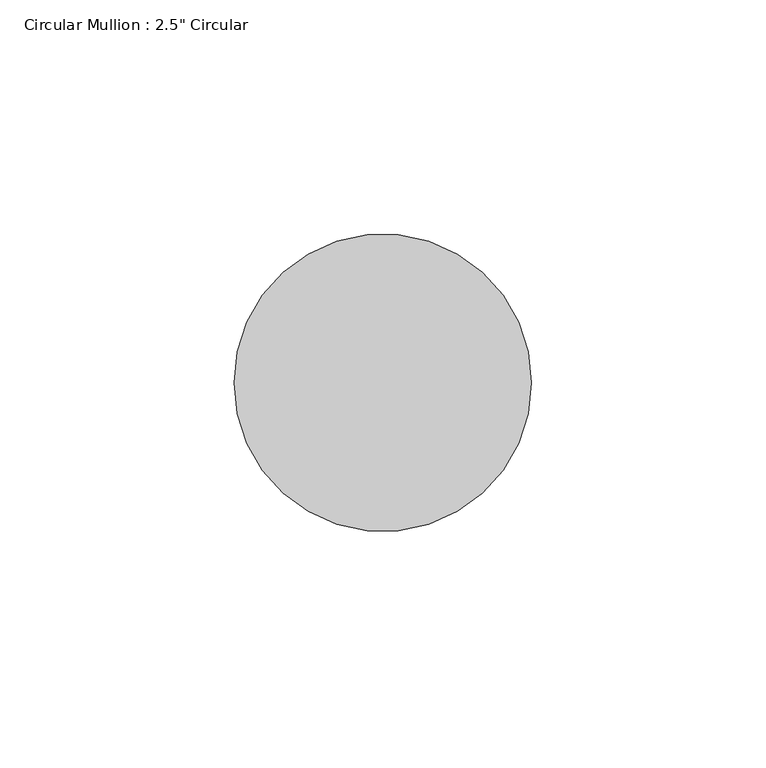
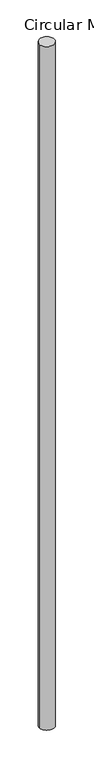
"""IFC4 building model written with IfcOpenShell, lengths in millimetres: member geometry."""

from ifc_helpers import new_model, si_unit, frame, origin, origin_with_axes, place, context, project, spatial, circle_curve, ellipse_curve, source, transform, mapped, element, save
from ifc_brep_helpers import plane_surface, cylinder_surface, advanced_brep


def member_d7a9b0f7(model_context):
    return source(origin(), model_context, "Body", "AdvancedBrep", [
        advanced_brep(
        [(31.75, 0.0, 0.0), (-31.75, 0.0, 0.0), (31.75, 0.0, -3044.8537899), (-31.75, 0.0, -3044.7308484)],
        [
            (0, 1, circle_curve(origin_with_axes(), 31.75)),
            (1, 0, circle_curve(origin_with_axes(), 31.75)),
            (0, 2),
            (2, 3, ellipse_curve(frame((0.0, 0.0, -3044.7923192), z_axis=(0.0019334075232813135, 0.05255420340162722, 0.9986162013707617), x_axis=(-0.036713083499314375, -0.9979411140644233, 0.05258975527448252)), 31.7939965, 31.75)),
            (3, 1),
            (3, 2, ellipse_curve(frame((0.0, 0.0, -3044.7923192), z_axis=(0.0019334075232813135, 0.05255420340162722, 0.9986162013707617), x_axis=(-0.036713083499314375, -0.9979411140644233, 0.05258975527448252)), 31.7939965, 31.75)),
        ],
        [
            plane_surface(frame((0.0, -31.75, 0.0), z_axis=(0.0, 0.0, 1.0), x_axis=(-1.0, 0.0, 0.0))),
            cylinder_surface(origin_with_axes(), 31.75),
            plane_surface(frame((304.5939483, -11.2056542, -3044.7923192), z_axis=(-0.001933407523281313, -0.052554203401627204, -0.9986162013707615), x_axis=(-0.03671308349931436, -0.997941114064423, 0.05258975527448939))),
        ],
        [
            (0, [[1, 2]]),
            (1, [[-1, 3, 4, 5]]),
            (1, [[-2, -5, 6, -3]]),
            (2, [[-6, -4]]),
        ],
    ),
    ])


if __name__ == "__main__":
    model = new_model("IFC4")
    model_context = context("Model", 3, world=origin())
    ifc_project = project(units=[si_unit("LENGTHUNIT", "METRE", prefix="MILLI")], contexts=[model_context])
    site = spatial("IfcSite", under=ifc_project)
    building = spatial("IfcBuilding", under=site)
    placement = place(None, origin())
    member_shape = member_d7a9b0f7(model_context)
    element("IfcMember", 1, ObjectType="Circular Mullion : 2.5\" Circular", at=placement, inside=building, context=model_context, shape_type="MappedRepresentation", body=[
        mapped(member_shape, transform((0.0, 0.0, 0.0), x_axis=(1.0, 0.0, 0.0), y_axis=(0.0, 1.0, 0.0), z_axis=(0.0, 0.0, 1.0))),
    ])
    save(model, "model.ifc")
